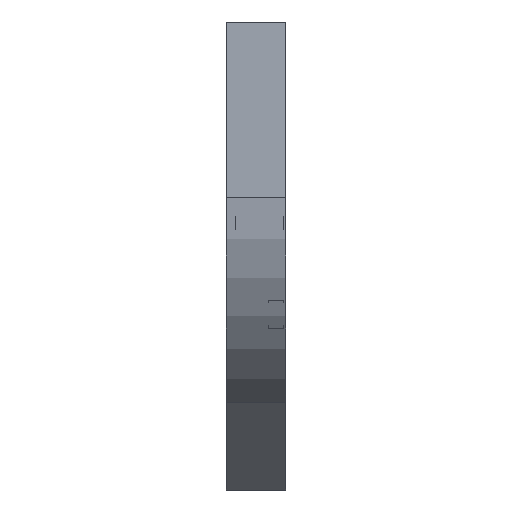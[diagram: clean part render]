
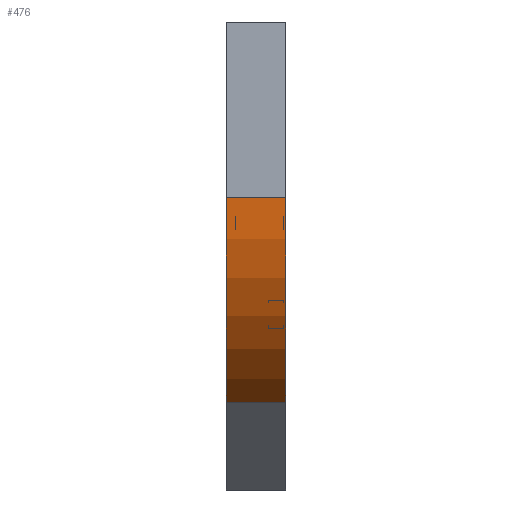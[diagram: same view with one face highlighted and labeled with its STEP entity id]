
A CAD part, left-side view. The second image highlights one B-rep face of the part: STEP entity #476.
In plain terms, the highlighted cylindrical face has radius 300 mm (diameter 600 mm), a partial arc.
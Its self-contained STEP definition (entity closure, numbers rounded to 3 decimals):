
#135 = EDGE_CURVE ( 'NONE', #365, #1517, #1131, .T. ) ;
#228 = ORIENTED_EDGE ( 'NONE', *, *, #135, .F. ) ;
#255 = EDGE_CURVE ( 'NONE', #1087, #1517, #1619, .T. ) ;
#272 = DIRECTION ( 'NONE',  ( 0., -1., 0. ) ) ;
#284 = VECTOR ( 'NONE', #1006, 1000. ) ;
#345 = AXIS2_PLACEMENT_3D ( 'NONE', #554, #1452, #1561 ) ;
#365 = VERTEX_POINT ( 'NONE', #1609 ) ;
#436 = CARTESIAN_POINT ( 'NONE',  ( 0., 0., -223.205 ) ) ;
#476 = ADVANCED_FACE ( 'NONE', ( #1579 ), #1166, .T. ) ;
#506 = ORIENTED_EDGE ( 'NONE', *, *, #715, .T. ) ;
#554 = CARTESIAN_POINT ( 'NONE',  ( 300., 0., -223.205 ) ) ;
#577 = ORIENTED_EDGE ( 'NONE', *, *, #896, .F. ) ;
#631 = EDGE_LOOP ( 'NONE', ( #228, #577, #506, #698 ) ) ;
#698 = ORIENTED_EDGE ( 'NONE', *, *, #255, .T. ) ;
#715 = EDGE_CURVE ( 'NONE', #1683, #1087, #1361, .T. ) ;
#732 = VECTOR ( 'NONE', #1349, 1000. ) ;
#779 = CARTESIAN_POINT ( 'NONE',  ( 150., 75., -483.013 ) ) ;
#812 = CARTESIAN_POINT ( 'NONE',  ( 150., 0., -483.013 ) ) ;
#859 = CARTESIAN_POINT ( 'NONE',  ( 300., 0., -223.205 ) ) ;
#896 = EDGE_CURVE ( 'NONE', #1683, #365, #1325, .T. ) ;
#967 = DIRECTION ( 'NONE',  ( -1., 0., 0. ) ) ;
#981 = CARTESIAN_POINT ( 'NONE',  ( 300., 75., -223.205 ) ) ;
#1006 = DIRECTION ( 'NONE',  ( 0., -1., 0. ) ) ;
#1083 = AXIS2_PLACEMENT_3D ( 'NONE', #981, #272, #967 ) ;
#1087 = VERTEX_POINT ( 'NONE', #779 ) ;
#1107 = CARTESIAN_POINT ( 'NONE',  ( 0., 75., -223.205 ) ) ;
#1131 = CIRCLE ( 'NONE', #1492, 300. ) ;
#1166 = CYLINDRICAL_SURFACE ( 'NONE', #345, 300. ) ;
#1319 = CARTESIAN_POINT ( 'NONE',  ( 150., 0., -483.013 ) ) ;
#1325 = LINE ( 'NONE', #436, #284 ) ;
#1349 = DIRECTION ( 'NONE',  ( 0., -1., 0. ) ) ;
#1361 = CIRCLE ( 'NONE', #1083, 300. ) ;
#1452 = DIRECTION ( 'NONE',  ( 0., -1., 0. ) ) ;
#1462 = DIRECTION ( 'NONE',  ( 0., -1., 0. ) ) ;
#1492 = AXIS2_PLACEMENT_3D ( 'NONE', #859, #1462, #1710 ) ;
#1517 = VERTEX_POINT ( 'NONE', #812 ) ;
#1561 = DIRECTION ( 'NONE',  ( 0., 0., -1. ) ) ;
#1579 = FACE_OUTER_BOUND ( 'NONE', #631, .T. ) ;
#1609 = CARTESIAN_POINT ( 'NONE',  ( 0., 0., -223.205 ) ) ;
#1619 = LINE ( 'NONE', #1319, #732 ) ;
#1683 = VERTEX_POINT ( 'NONE', #1107 ) ;
#1710 = DIRECTION ( 'NONE',  ( -1., 0., 0. ) ) ;
